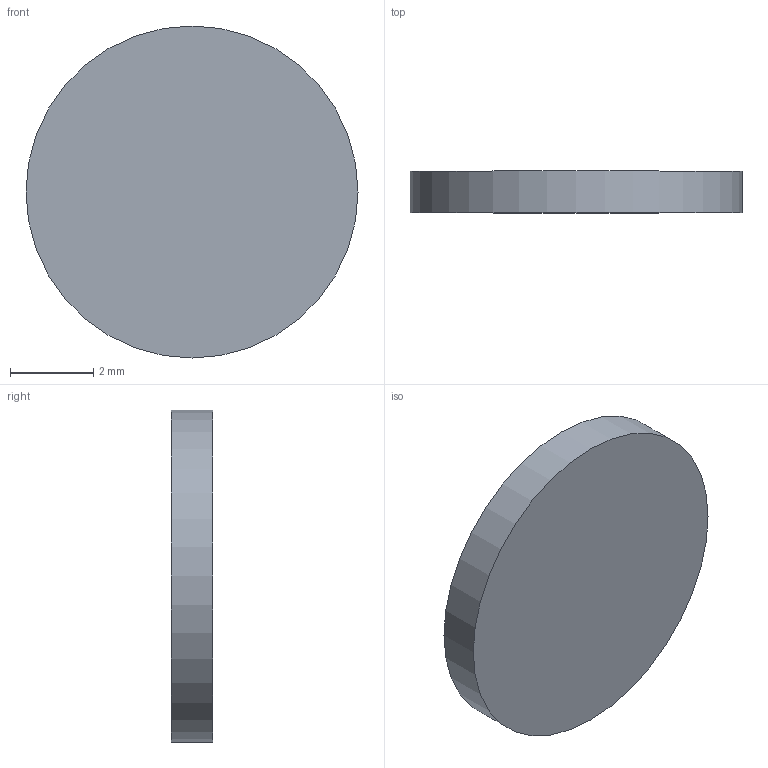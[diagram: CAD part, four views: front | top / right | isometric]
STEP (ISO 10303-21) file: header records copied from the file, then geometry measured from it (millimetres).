
FILE_DESCRIPTION(('Open CASCADE Model'),'2;1');
FILE_NAME('Open CASCADE Shape Model','2026-11-13T06:44:22',('Author'),( 'Open CASCADE'),'Open CASCADE STEP processor 7.8','Open CASCADE 7.8' ,'Unknown');
FILE_SCHEMA(('AUTOMOTIVE_DESIGN { 1 0 10303 214 1 1 1 1 }'));
Length unit declared in the file: millimetre
Products named in the file (1): Open CASCADE STEP translator 7.8 1
Bounding box: 8 x 1 x 8 mm (x, y, z)
Volume: 50.3 mm3; surface area: 125.7 mm2
Topology: 1 solids, 1 shells, 3 faces, 3 edges, 2 vertices
Faces by surface type: plane 2, cylinder 1
Full cylindrical faces by diameter (mm): 8 x1
Entity records: 108 total; most frequent: DIRECTION 19, CARTESIAN_POINT 15, AXIS2_PLACEMENT_3D 6, ORIENTED_EDGE 6, PCURVE 6, DEFINITIONAL_REPRESENTATION 6, LINE 5, VECTOR 5
